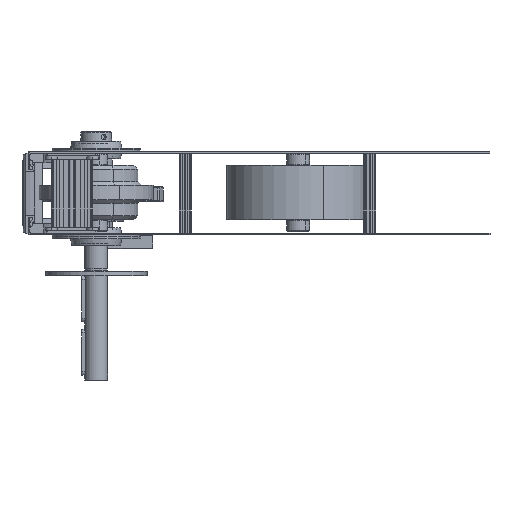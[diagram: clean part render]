
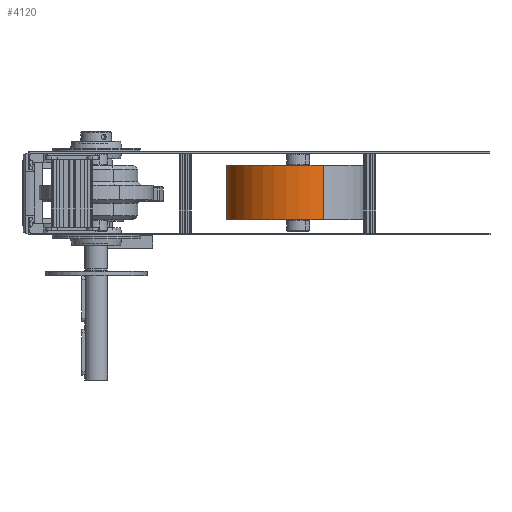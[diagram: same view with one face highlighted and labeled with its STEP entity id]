
A CAD part, left-side view. The second image highlights one B-rep face of the part: STEP entity #4120.
In plain terms, the highlighted cylindrical face has radius 77.5 mm (diameter 155 mm), a partial arc.
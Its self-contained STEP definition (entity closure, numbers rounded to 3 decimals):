
#1659 = DIRECTION ( 'NONE',  ( -1., 0., 0. ) ) ;
#4120 = ADVANCED_FACE ( 'NONE', ( #35193 ), #23379, .T. ) ;
#4390 = DIRECTION ( 'NONE',  ( 0., 0., 1. ) ) ;
#5355 = AXIS2_PLACEMENT_3D ( 'NONE', #9110, #30494, #5659 ) ;
#5659 = DIRECTION ( 'NONE',  ( 1., 0., 0. ) ) ;
#6409 = CARTESIAN_POINT ( 'NONE',  ( -77.5, 0., 0. ) ) ;
#9101 = VERTEX_POINT ( 'NONE', #45215 ) ;
#9110 = CARTESIAN_POINT ( 'NONE',  ( 0., 0., 58.5 ) ) ;
#9746 = VECTOR ( 'NONE', #16604, 1000. ) ;
#11488 = CARTESIAN_POINT ( 'NONE',  ( 77.5, 0., 0. ) ) ;
#11708 = EDGE_CURVE ( 'NONE', #9101, #27525, #41489, .T. ) ;
#11768 = LINE ( 'NONE', #26148, #15145 ) ;
#13480 = ORIENTED_EDGE ( 'NONE', *, *, #18696, .T. ) ;
#14597 = CARTESIAN_POINT ( 'NONE',  ( 0., 0., 0. ) ) ;
#15145 = VECTOR ( 'NONE', #29447, 1000. ) ;
#16604 = DIRECTION ( 'NONE',  ( 0., 0., -1. ) ) ;
#17356 = AXIS2_PLACEMENT_3D ( 'NONE', #33876, #29942, #1659 ) ;
#18073 = DIRECTION ( 'NONE',  ( 1., 0., 0. ) ) ;
#18696 = EDGE_CURVE ( 'NONE', #19184, #27833, #35413, .T. ) ;
#19184 = VERTEX_POINT ( 'NONE', #11488 ) ;
#20604 = EDGE_CURVE ( 'NONE', #27525, #27833, #26118, .T. ) ;
#23379 = CYLINDRICAL_SURFACE ( 'NONE', #17356, 77.5 ) ;
#23449 = EDGE_CURVE ( 'NONE', #9101, #19184, #11768, .T. ) ;
#25122 = ORIENTED_EDGE ( 'NONE', *, *, #11708, .F. ) ;
#26118 = LINE ( 'NONE', #45494, #9746 ) ;
#26148 = CARTESIAN_POINT ( 'NONE',  ( 77.5, 0., 58.5 ) ) ;
#27525 = VERTEX_POINT ( 'NONE', #36635 ) ;
#27833 = VERTEX_POINT ( 'NONE', #6409 ) ;
#29447 = DIRECTION ( 'NONE',  ( 0., 0., -1. ) ) ;
#29942 = DIRECTION ( 'NONE',  ( 0., 0., -1. ) ) ;
#30494 = DIRECTION ( 'NONE',  ( 0., 0., 1. ) ) ;
#33876 = CARTESIAN_POINT ( 'NONE',  ( 0., 0., 58.5 ) ) ;
#34759 = AXIS2_PLACEMENT_3D ( 'NONE', #14597, #4390, #18073 ) ;
#35193 = FACE_OUTER_BOUND ( 'NONE', #40802, .T. ) ;
#35413 = CIRCLE ( 'NONE', #34759, 77.5 ) ;
#36635 = CARTESIAN_POINT ( 'NONE',  ( -77.5, 0., 58.5 ) ) ;
#39601 = ORIENTED_EDGE ( 'NONE', *, *, #23449, .T. ) ;
#40802 = EDGE_LOOP ( 'NONE', ( #25122, #39601, #13480, #42891 ) ) ;
#41489 = CIRCLE ( 'NONE', #5355, 77.5 ) ;
#42891 = ORIENTED_EDGE ( 'NONE', *, *, #20604, .F. ) ;
#45215 = CARTESIAN_POINT ( 'NONE',  ( 77.5, 0., 58.5 ) ) ;
#45494 = CARTESIAN_POINT ( 'NONE',  ( -77.5, 0., 58.5 ) ) ;
